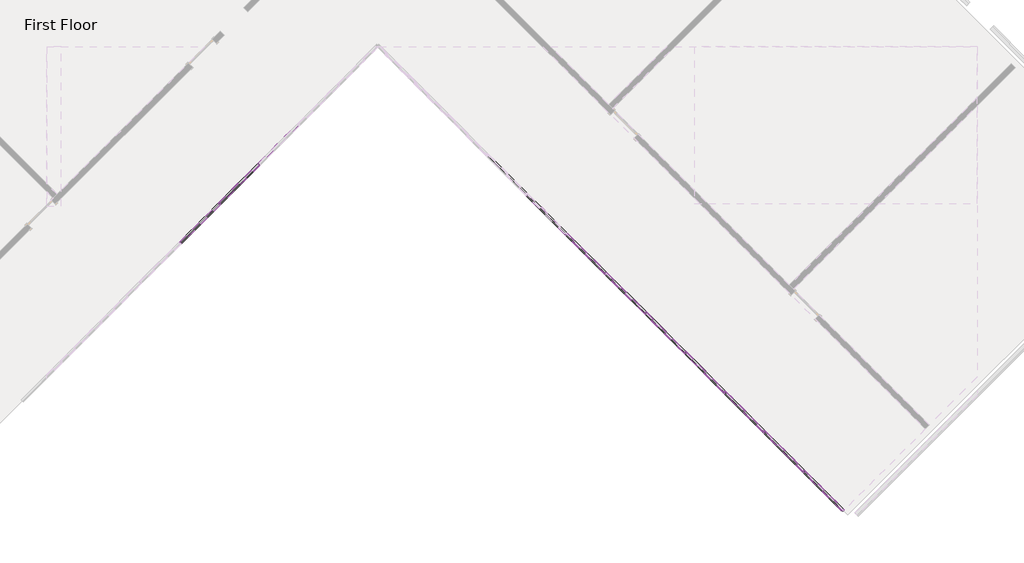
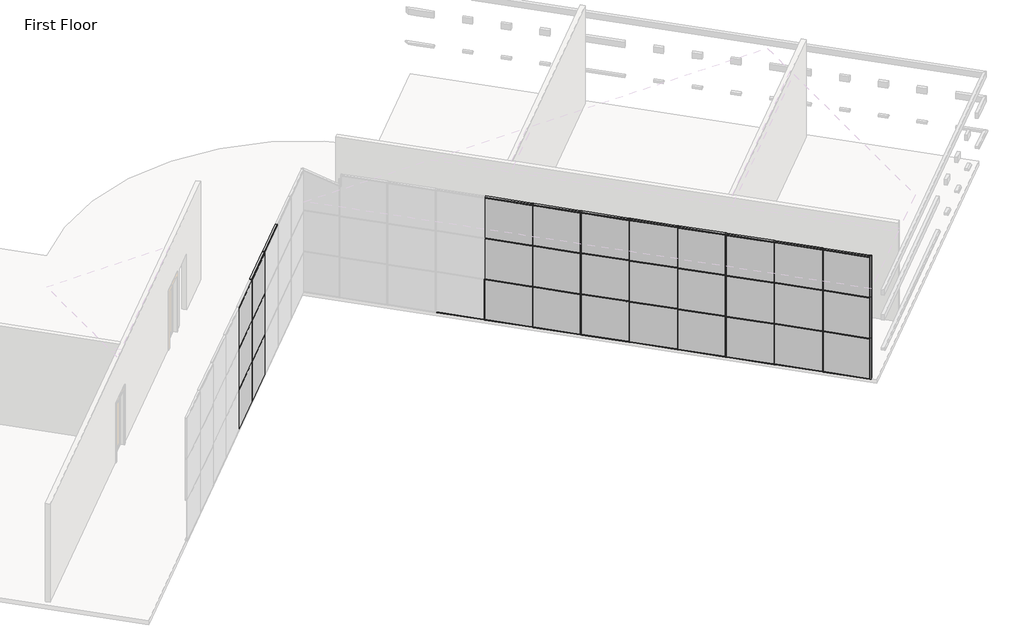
# One storey, part 2 of 5: 71 members, 30 plates.
"""IFC4 building model written with IfcOpenShell, lengths in millimetres."""

from ifc_helpers import new_model, si_unit, origin, place, context, project, spatial, transform, mapped, element, save
from components import member_b8a5b5c0, member_155beb68, member_f5090587, member_42be4715, member_6121af53, member_b87a50da, system_panel_glazed_f8555db4, system_panel_glazed_da345f4e, system_panel_solid_51be2c86, system_panel_solid_5fd6f37f, system_panel_solid_99f695d0, system_panel_solid_2f1037e2

model = new_model("IFC4")

# Units and contexts
model_context = context("Model", 3, world=origin())
ifc_project = project(units=[si_unit("LENGTHUNIT", "METRE", prefix="MILLI")], contexts=[model_context])

# Site, building, storey
site = spatial("IfcSite", under=ifc_project)
building = spatial("IfcBuilding", under=site)
storey = spatial("IfcBuildingStorey", under=building, Name="First Floor", Elevation=0.0)

# Members
placement = place(None, origin())
member_shape = member_b8a5b5c0(model_context)
element("IfcMember", 1, ObjectType="Rectangular Mullion : 1.5\" x 2.5\" Rectangular", at=placement, inside=storey, context=model_context, shape_type="MappedRepresentation", body=[
    mapped(member_shape, transform((9787.3975743, -9702.8925106, 0.0), x_axis=(0.0, 0.0, -1.0), y_axis=(0.70710678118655, 0.707106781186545, 0.0), z_axis=(0.7071067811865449, -0.7071067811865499, 0.0))),
])
member_2_shape = member_155beb68(model_context)
element("IfcMember", 2, ObjectType="Rectangular Mullion : 1.5\" x 2.5\" Rectangular", at=placement, inside=storey, context=model_context, shape_type="MappedRepresentation", body=[
    mapped(member_2_shape, transform((-6100.9205679, -280.3587756, 0.0), x_axis=(-0.7071067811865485, -0.7071067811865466, 0.0), y_axis=(-0.7071067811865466, 0.7071067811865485, 0.0), z_axis=(0.0, 0.0, -1.0))),
])
element("IfcMember", 3, ObjectType="Rectangular Mullion : 1.5\" x 2.5\" Rectangular", at=placement, inside=storey, context=model_context, shape_type="MappedRepresentation", body=[
    mapped(member_2_shape, transform((-7178.5513024, -1357.9895101, 0.0), x_axis=(-0.7071067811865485, -0.7071067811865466, 0.0), y_axis=(-0.7071067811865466, 0.7071067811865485, 0.0), z_axis=(0.0, 0.0, -1.0))),
])
element("IfcMember", 4, ObjectType="Rectangular Mullion : 1.5\" x 2.5\" Rectangular", at=placement, inside=storey, context=model_context, shape_type="MappedRepresentation", body=[
    mapped(member_2_shape, transform((5503.8154046, -5419.3103408, 0.0), x_axis=(-0.7071067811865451, 0.70710678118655, 0.0), y_axis=(0.70710678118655, 0.7071067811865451, 0.0), z_axis=(0.0, 0.0, -1.0))),
])
element("IfcMember", 5, ObjectType="Rectangular Mullion : 1.5\" x 2.5\" Rectangular", at=placement, inside=storey, context=model_context, shape_type="MappedRepresentation", body=[
    mapped(member_2_shape, transform((4426.18467, -4341.6796063, 0.0), x_axis=(-0.7071067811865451, 0.70710678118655, 0.0), y_axis=(0.70710678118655, 0.7071067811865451, 0.0), z_axis=(0.0, 0.0, -1.0))),
])
element("IfcMember", 6, ObjectType="Rectangular Mullion : 1.5\" x 2.5\" Rectangular", at=placement, inside=storey, context=model_context, shape_type="MappedRepresentation", body=[
    mapped(member_2_shape, transform((3348.5539355, -3264.0488718, 0.0), x_axis=(-0.7071067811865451, 0.70710678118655, 0.0), y_axis=(0.70710678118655, 0.7071067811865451, 0.0), z_axis=(0.0, 0.0, -1.0))),
])
element("IfcMember", 7, ObjectType="Rectangular Mullion : 1.5\" x 2.5\" Rectangular", at=placement, inside=storey, context=model_context, shape_type="MappedRepresentation", body=[
    mapped(member_2_shape, transform((2270.923201, -2186.4181373, 0.0), x_axis=(-0.7071067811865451, 0.70710678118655, 0.0), y_axis=(0.70710678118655, 0.7071067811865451, 0.0), z_axis=(0.0, 0.0, -1.0))),
])
element("IfcMember", 8, ObjectType="Rectangular Mullion : 1.5\" x 2.5\" Rectangular", at=placement, inside=storey, context=model_context, shape_type="MappedRepresentation", body=[
    mapped(member_2_shape, transform((1193.2924664, -1108.7874027, 0.0), x_axis=(-0.7071067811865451, 0.70710678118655, 0.0), y_axis=(0.70710678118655, 0.7071067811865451, 0.0), z_axis=(0.0, 0.0, -1.0))),
])
element("IfcMember", 9, ObjectType="Rectangular Mullion : 1.5\" x 2.5\" Rectangular", at=placement, inside=storey, context=model_context, shape_type="MappedRepresentation", body=[
    mapped(member_2_shape, transform((8736.7076081, -8652.2025444, 0.0), x_axis=(-0.7071067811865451, 0.70710678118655, 0.0), y_axis=(0.70710678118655, 0.7071067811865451, 0.0), z_axis=(0.0, 0.0, -1.0))),
])
element("IfcMember", 10, ObjectType="Rectangular Mullion : 1.5\" x 2.5\" Rectangular", at=placement, inside=storey, context=model_context, shape_type="MappedRepresentation", body=[
    mapped(member_2_shape, transform((7659.0768736, -7574.5718099, 0.0), x_axis=(-0.7071067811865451, 0.70710678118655, 0.0), y_axis=(0.70710678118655, 0.7071067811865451, 0.0), z_axis=(0.0, 0.0, -1.0))),
])
element("IfcMember", 11, ObjectType="Rectangular Mullion : 1.5\" x 2.5\" Rectangular", at=placement, inside=storey, context=model_context, shape_type="MappedRepresentation", body=[
    mapped(member_2_shape, transform((6581.4461391, -6496.9410754, 0.0), x_axis=(-0.7071067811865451, 0.70710678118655, 0.0), y_axis=(0.70710678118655, 0.7071067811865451, 0.0), z_axis=(0.0, 0.0, -1.0))),
])
element("IfcMember", 12, ObjectType="Rectangular Mullion : 1.5\" x 2.5\" Rectangular", at=placement, inside=storey, context=model_context, shape_type="MappedRepresentation", body=[
    mapped(member_2_shape, transform((-7178.5513024, -1357.9895101, 3048.0), x_axis=(-0.7071067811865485, -0.7071067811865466, 0.0), y_axis=(-0.7071067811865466, 0.7071067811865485, 0.0), z_axis=(0.0, 0.0, -1.0))),
])
element("IfcMember", 13, ObjectType="Rectangular Mullion : 1.5\" x 2.5\" Rectangular", at=placement, inside=storey, context=model_context, shape_type="MappedRepresentation", body=[
    mapped(member_2_shape, transform((-6100.9205679, -280.3587756, 3048.0), x_axis=(-0.7071067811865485, -0.7071067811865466, 0.0), y_axis=(-0.7071067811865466, 0.7071067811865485, 0.0), z_axis=(0.0, 0.0, -1.0))),
])
element("IfcMember", 14, ObjectType="Rectangular Mullion : 1.5\" x 2.5\" Rectangular", at=placement, inside=storey, context=model_context, shape_type="MappedRepresentation", body=[
    mapped(member_2_shape, transform((8736.7076081, -8652.2025444, 3048.0), x_axis=(-0.7071067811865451, 0.70710678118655, 0.0), y_axis=(0.70710678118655, 0.7071067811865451, 0.0), z_axis=(0.0, 0.0, -1.0))),
])
element("IfcMember", 15, ObjectType="Rectangular Mullion : 1.5\" x 2.5\" Rectangular", at=placement, inside=storey, context=model_context, shape_type="MappedRepresentation", body=[
    mapped(member_2_shape, transform((7659.0768736, -7574.5718099, 3048.0), x_axis=(-0.7071067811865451, 0.70710678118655, 0.0), y_axis=(0.70710678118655, 0.7071067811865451, 0.0), z_axis=(0.0, 0.0, -1.0))),
])
element("IfcMember", 16, ObjectType="Rectangular Mullion : 1.5\" x 2.5\" Rectangular", at=placement, inside=storey, context=model_context, shape_type="MappedRepresentation", body=[
    mapped(member_2_shape, transform((6581.4461391, -6496.9410754, 3048.0), x_axis=(-0.7071067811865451, 0.70710678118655, 0.0), y_axis=(0.70710678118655, 0.7071067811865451, 0.0), z_axis=(0.0, 0.0, -1.0))),
])
element("IfcMember", 17, ObjectType="Rectangular Mullion : 1.5\" x 2.5\" Rectangular", at=placement, inside=storey, context=model_context, shape_type="MappedRepresentation", body=[
    mapped(member_2_shape, transform((5503.8154046, -5419.3103408, 3048.0), x_axis=(-0.7071067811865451, 0.70710678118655, 0.0), y_axis=(0.70710678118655, 0.7071067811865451, 0.0), z_axis=(0.0, 0.0, -1.0))),
])
element("IfcMember", 18, ObjectType="Rectangular Mullion : 1.5\" x 2.5\" Rectangular", at=placement, inside=storey, context=model_context, shape_type="MappedRepresentation", body=[
    mapped(member_2_shape, transform((4426.18467, -4341.6796063, 3048.0), x_axis=(-0.7071067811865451, 0.70710678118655, 0.0), y_axis=(0.70710678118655, 0.7071067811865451, 0.0), z_axis=(0.0, 0.0, -1.0))),
])
element("IfcMember", 19, ObjectType="Rectangular Mullion : 1.5\" x 2.5\" Rectangular", at=placement, inside=storey, context=model_context, shape_type="MappedRepresentation", body=[
    mapped(member_2_shape, transform((3348.5539355, -3264.0488718, 3048.0), x_axis=(-0.7071067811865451, 0.70710678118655, 0.0), y_axis=(0.70710678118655, 0.7071067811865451, 0.0), z_axis=(0.0, 0.0, -1.0))),
])
element("IfcMember", 20, ObjectType="Rectangular Mullion : 1.5\" x 2.5\" Rectangular", at=placement, inside=storey, context=model_context, shape_type="MappedRepresentation", body=[
    mapped(member_2_shape, transform((2270.923201, -2186.4181373, 3048.0), x_axis=(-0.7071067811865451, 0.70710678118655, 0.0), y_axis=(0.70710678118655, 0.7071067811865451, 0.0), z_axis=(0.0, 0.0, -1.0))),
])
element("IfcMember", 21, ObjectType="Rectangular Mullion : 1.5\" x 2.5\" Rectangular", at=placement, inside=storey, context=model_context, shape_type="MappedRepresentation", body=[
    mapped(member_2_shape, transform((-6100.9205679, -280.3587756, 1524.0), x_axis=(-0.7071067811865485, -0.7071067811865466, 0.0), y_axis=(-0.7071067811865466, 0.7071067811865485, 0.0), z_axis=(0.0, 0.0, -1.0))),
])
element("IfcMember", 22, ObjectType="Rectangular Mullion : 1.5\" x 2.5\" Rectangular", at=placement, inside=storey, context=model_context, shape_type="MappedRepresentation", body=[
    mapped(member_2_shape, transform((-7178.5513024, -1357.9895101, 1524.0), x_axis=(-0.7071067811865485, -0.7071067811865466, 0.0), y_axis=(-0.7071067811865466, 0.7071067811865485, 0.0), z_axis=(0.0, 0.0, -1.0))),
])
element("IfcMember", 23, ObjectType="Rectangular Mullion : 1.5\" x 2.5\" Rectangular", at=placement, inside=storey, context=model_context, shape_type="MappedRepresentation", body=[
    mapped(member_2_shape, transform((8736.7076081, -8652.2025444, 1524.0), x_axis=(-0.7071067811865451, 0.70710678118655, 0.0), y_axis=(0.70710678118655, 0.7071067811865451, 0.0), z_axis=(0.0, 0.0, -1.0))),
])
element("IfcMember", 24, ObjectType="Rectangular Mullion : 1.5\" x 2.5\" Rectangular", at=placement, inside=storey, context=model_context, shape_type="MappedRepresentation", body=[
    mapped(member_2_shape, transform((7659.0768736, -7574.5718099, 1524.0), x_axis=(-0.7071067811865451, 0.70710678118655, 0.0), y_axis=(0.70710678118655, 0.7071067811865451, 0.0), z_axis=(0.0, 0.0, -1.0))),
])
element("IfcMember", 25, ObjectType="Rectangular Mullion : 1.5\" x 2.5\" Rectangular", at=placement, inside=storey, context=model_context, shape_type="MappedRepresentation", body=[
    mapped(member_2_shape, transform((6581.4461391, -6496.9410754, 1524.0), x_axis=(-0.7071067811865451, 0.70710678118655, 0.0), y_axis=(0.70710678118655, 0.7071067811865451, 0.0), z_axis=(0.0, 0.0, -1.0))),
])
element("IfcMember", 26, ObjectType="Rectangular Mullion : 1.5\" x 2.5\" Rectangular", at=placement, inside=storey, context=model_context, shape_type="MappedRepresentation", body=[
    mapped(member_2_shape, transform((5503.8154046, -5419.3103408, 1524.0), x_axis=(-0.7071067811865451, 0.70710678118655, 0.0), y_axis=(0.70710678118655, 0.7071067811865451, 0.0), z_axis=(0.0, 0.0, -1.0))),
])
element("IfcMember", 27, ObjectType="Rectangular Mullion : 1.5\" x 2.5\" Rectangular", at=placement, inside=storey, context=model_context, shape_type="MappedRepresentation", body=[
    mapped(member_2_shape, transform((4426.18467, -4341.6796063, 1524.0), x_axis=(-0.7071067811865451, 0.70710678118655, 0.0), y_axis=(0.70710678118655, 0.7071067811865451, 0.0), z_axis=(0.0, 0.0, -1.0))),
])
element("IfcMember", 28, ObjectType="Rectangular Mullion : 1.5\" x 2.5\" Rectangular", at=placement, inside=storey, context=model_context, shape_type="MappedRepresentation", body=[
    mapped(member_2_shape, transform((3348.5539355, -3264.0488718, 1524.0), x_axis=(-0.7071067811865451, 0.70710678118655, 0.0), y_axis=(0.70710678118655, 0.7071067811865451, 0.0), z_axis=(0.0, 0.0, -1.0))),
])
element("IfcMember", 29, ObjectType="Rectangular Mullion : 1.5\" x 2.5\" Rectangular", at=placement, inside=storey, context=model_context, shape_type="MappedRepresentation", body=[
    mapped(member_2_shape, transform((2270.923201, -2186.4181373, 1524.0), x_axis=(-0.7071067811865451, 0.70710678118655, 0.0), y_axis=(0.70710678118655, 0.7071067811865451, 0.0), z_axis=(0.0, 0.0, -1.0))),
])
member_3_shape = member_f5090587(model_context)
element("IfcMember", 30, ObjectType="Rectangular Mullion : 1.5\" x 2.5\" Rectangular", at=placement, inside=storey, context=model_context, shape_type="MappedRepresentation", body=[
    mapped(member_3_shape, transform((8750.1779923, -8665.6729286, 1524.0), x_axis=(0.0, 0.0, 1.0), y_axis=(0.7071067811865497, 0.7071067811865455, 0.0), z_axis=(-0.7071067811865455, 0.7071067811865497, 0.0))),
])
element("IfcMember", 31, ObjectType="Rectangular Mullion : 1.5\" x 2.5\" Rectangular", at=placement, inside=storey, context=model_context, shape_type="MappedRepresentation", body=[
    mapped(member_3_shape, transform((8750.1779923, -8665.6729286, 3048.0), x_axis=(0.0, 0.0, 1.0), y_axis=(0.7071067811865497, 0.7071067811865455, 0.0), z_axis=(-0.7071067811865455, 0.7071067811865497, 0.0))),
])
member_4_shape = member_42be4715(model_context)
element("IfcMember", 32, ObjectType="Rectangular Mullion : 1.5\" x 2.5\" Rectangular", at=placement, inside=storey, context=model_context, shape_type="MappedRepresentation", body=[
    mapped(member_4_shape, transform((-6087.4501837, -266.8883914, 1524.0), x_axis=(0.0, 0.0, 1.0), y_axis=(-0.7071067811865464, 0.7071067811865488, 0.0), z_axis=(-0.7071067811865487, -0.7071067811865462, 0.0))),
])
element("IfcMember", 33, ObjectType="Rectangular Mullion : 1.5\" x 2.5\" Rectangular", at=placement, inside=storey, context=model_context, shape_type="MappedRepresentation", body=[
    mapped(member_4_shape, transform((-7165.0809182, -1344.5191259, 1524.0), x_axis=(0.0, 0.0, 1.0), y_axis=(-0.7071067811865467, 0.7071067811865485, 0.0), z_axis=(-0.7071067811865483, -0.7071067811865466, 0.0))),
])
element("IfcMember", 34, ObjectType="Rectangular Mullion : 1.5\" x 2.5\" Rectangular", at=placement, inside=storey, context=model_context, shape_type="MappedRepresentation", body=[
    mapped(member_4_shape, transform((-6087.4501837, -266.8883914, 3048.0), x_axis=(0.0, 0.0, 1.0), y_axis=(-0.7071067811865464, 0.7071067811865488, 0.0), z_axis=(-0.7071067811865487, -0.7071067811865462, 0.0))),
])
element("IfcMember", 35, ObjectType="Rectangular Mullion : 1.5\" x 2.5\" Rectangular", at=placement, inside=storey, context=model_context, shape_type="MappedRepresentation", body=[
    mapped(member_4_shape, transform((-7165.0809182, -1344.5191259, 3048.0), x_axis=(0.0, 0.0, 1.0), y_axis=(-0.7071067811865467, 0.7071067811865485, 0.0), z_axis=(-0.7071067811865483, -0.7071067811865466, 0.0))),
])
element("IfcMember", 36, ObjectType="Rectangular Mullion : 1.5\" x 2.5\" Rectangular", at=placement, inside=storey, context=model_context, shape_type="MappedRepresentation", body=[
    mapped(member_4_shape, transform((7672.5472578, -7588.0421941, 1524.0), x_axis=(0.0, 0.0, 1.0), y_axis=(0.7071067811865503, 0.7071067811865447, 0.0), z_axis=(-0.7071067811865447, 0.7071067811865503, 0.0))),
])
element("IfcMember", 37, ObjectType="Rectangular Mullion : 1.5\" x 2.5\" Rectangular", at=placement, inside=storey, context=model_context, shape_type="MappedRepresentation", body=[
    mapped(member_4_shape, transform((6594.9165233, -6510.4114596, 1524.0), x_axis=(0.0, 0.0, 1.0), y_axis=(0.7071067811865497, 0.7071067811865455, 0.0), z_axis=(-0.7071067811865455, 0.7071067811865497, 0.0))),
])
element("IfcMember", 38, ObjectType="Rectangular Mullion : 1.5\" x 2.5\" Rectangular", at=placement, inside=storey, context=model_context, shape_type="MappedRepresentation", body=[
    mapped(member_4_shape, transform((5517.2857887, -5432.780725, 1524.0), x_axis=(0.0, 0.0, 1.0), y_axis=(0.70710678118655, 0.707106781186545, 0.0), z_axis=(-0.707106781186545, 0.70710678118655, 0.0))),
])
element("IfcMember", 39, ObjectType="Rectangular Mullion : 1.5\" x 2.5\" Rectangular", at=placement, inside=storey, context=model_context, shape_type="MappedRepresentation", body=[
    mapped(member_4_shape, transform((4439.6550542, -4355.1499905, 1524.0), x_axis=(0.0, 0.0, 1.0), y_axis=(0.70710678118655, 0.707106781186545, 0.0), z_axis=(-0.7071067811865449, 0.7071067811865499, 0.0))),
])
element("IfcMember", 40, ObjectType="Rectangular Mullion : 1.5\" x 2.5\" Rectangular", at=placement, inside=storey, context=model_context, shape_type="MappedRepresentation", body=[
    mapped(member_4_shape, transform((3362.0243197, -3277.519256, 1524.0), x_axis=(0.0, 0.0, 1.0), y_axis=(0.70710678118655, 0.707106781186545, 0.0), z_axis=(-0.707106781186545, 0.70710678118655, 0.0))),
])
element("IfcMember", 41, ObjectType="Rectangular Mullion : 1.5\" x 2.5\" Rectangular", at=placement, inside=storey, context=model_context, shape_type="MappedRepresentation", body=[
    mapped(member_4_shape, transform((2284.3935852, -2199.8885214, 1524.0), x_axis=(0.0, 0.0, 1.0), y_axis=(0.70710678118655, 0.707106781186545, 0.0), z_axis=(-0.7071067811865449, 0.7071067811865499, 0.0))),
])
element("IfcMember", 42, ObjectType="Rectangular Mullion : 1.5\" x 2.5\" Rectangular", at=placement, inside=storey, context=model_context, shape_type="MappedRepresentation", body=[
    mapped(member_4_shape, transform((1206.7628506, -1122.2577869, 1524.0), x_axis=(0.0, 0.0, 1.0), y_axis=(0.70710678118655, 0.707106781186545, 0.0), z_axis=(-0.707106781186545, 0.70710678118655, 0.0))),
])
element("IfcMember", 43, ObjectType="Rectangular Mullion : 1.5\" x 2.5\" Rectangular", at=placement, inside=storey, context=model_context, shape_type="MappedRepresentation", body=[
    mapped(member_4_shape, transform((7672.5472578, -7588.0421941, 3048.0), x_axis=(0.0, 0.0, 1.0), y_axis=(0.70710678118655, 0.707106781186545, 0.0), z_axis=(-0.707106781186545, 0.70710678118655, 0.0))),
])
element("IfcMember", 44, ObjectType="Rectangular Mullion : 1.5\" x 2.5\" Rectangular", at=placement, inside=storey, context=model_context, shape_type="MappedRepresentation", body=[
    mapped(member_4_shape, transform((6594.9165233, -6510.4114596, 3048.0), x_axis=(0.0, 0.0, 1.0), y_axis=(0.70710678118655, 0.707106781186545, 0.0), z_axis=(-0.7071067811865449, 0.7071067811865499, 0.0))),
])
element("IfcMember", 45, ObjectType="Rectangular Mullion : 1.5\" x 2.5\" Rectangular", at=placement, inside=storey, context=model_context, shape_type="MappedRepresentation", body=[
    mapped(member_4_shape, transform((5517.2857887, -5432.780725, 3048.0), x_axis=(0.0, 0.0, 1.0), y_axis=(0.70710678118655, 0.707106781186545, 0.0), z_axis=(-0.7071067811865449, 0.7071067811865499, 0.0))),
])
element("IfcMember", 46, ObjectType="Rectangular Mullion : 1.5\" x 2.5\" Rectangular", at=placement, inside=storey, context=model_context, shape_type="MappedRepresentation", body=[
    mapped(member_4_shape, transform((4439.6550542, -4355.1499905, 3048.0), x_axis=(0.0, 0.0, 1.0), y_axis=(0.70710678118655, 0.707106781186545, 0.0), z_axis=(-0.707106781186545, 0.70710678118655, 0.0))),
])
element("IfcMember", 47, ObjectType="Rectangular Mullion : 1.5\" x 2.5\" Rectangular", at=placement, inside=storey, context=model_context, shape_type="MappedRepresentation", body=[
    mapped(member_4_shape, transform((3362.0243197, -3277.519256, 3048.0), x_axis=(0.0, 0.0, 1.0), y_axis=(0.70710678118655, 0.707106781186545, 0.0), z_axis=(-0.707106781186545, 0.70710678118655, 0.0))),
])
element("IfcMember", 48, ObjectType="Rectangular Mullion : 1.5\" x 2.5\" Rectangular", at=placement, inside=storey, context=model_context, shape_type="MappedRepresentation", body=[
    mapped(member_4_shape, transform((2284.3935852, -2199.8885214, 3048.0), x_axis=(0.0, 0.0, 1.0), y_axis=(0.70710678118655, 0.707106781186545, 0.0), z_axis=(-0.7071067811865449, 0.7071067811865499, 0.0))),
])
member_5_shape = member_6121af53(model_context)
element("IfcMember", 49, ObjectType="Rectangular Mullion : 1.5\" x 2.5\" Rectangular", at=placement, inside=storey, context=model_context, shape_type="MappedRepresentation", body=[
    mapped(member_5_shape, transform((-7192.0216866, -1371.4598943, 0.0), x_axis=(0.0, 0.0, -1.0), y_axis=(-0.7071067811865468, 0.7071067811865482, 0.0), z_axis=(0.7071067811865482, 0.7071067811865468, 0.0))),
])
element("IfcMember", 50, ObjectType="Rectangular Mullion : 1.5\" x 2.5\" Rectangular", at=placement, inside=storey, context=model_context, shape_type="MappedRepresentation", body=[
    mapped(member_5_shape, transform((-6114.3909521, -293.8291597, 0.0), x_axis=(0.0, 0.0, -1.0), y_axis=(-0.7071067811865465, 0.7071067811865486, 0.0), z_axis=(0.7071067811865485, 0.7071067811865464, 0.0))),
])
element("IfcMember", 51, ObjectType="Rectangular Mullion : 1.5\" x 2.5\" Rectangular", at=placement, inside=storey, context=model_context, shape_type="MappedRepresentation", body=[
    mapped(member_5_shape, transform((8723.237224, -8638.7321603, 0.0), x_axis=(0.0, 0.0, -1.0), y_axis=(0.7071067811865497, 0.7071067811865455, 0.0), z_axis=(0.7071067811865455, -0.7071067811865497, 0.0))),
])
element("IfcMember", 52, ObjectType="Rectangular Mullion : 1.5\" x 2.5\" Rectangular", at=placement, inside=storey, context=model_context, shape_type="MappedRepresentation", body=[
    mapped(member_5_shape, transform((7645.6064894, -7561.1014257, 0.0), x_axis=(0.0, 0.0, -1.0), y_axis=(0.70710678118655, 0.707106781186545, 0.0), z_axis=(0.707106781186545, -0.70710678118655, 0.0))),
])
element("IfcMember", 53, ObjectType="Rectangular Mullion : 1.5\" x 2.5\" Rectangular", at=placement, inside=storey, context=model_context, shape_type="MappedRepresentation", body=[
    mapped(member_5_shape, transform((6567.9757549, -6483.4706912, 0.0), x_axis=(0.0, 0.0, -1.0), y_axis=(0.70710678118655, 0.707106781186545, 0.0), z_axis=(0.707106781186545, -0.70710678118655, 0.0))),
])
element("IfcMember", 54, ObjectType="Rectangular Mullion : 1.5\" x 2.5\" Rectangular", at=placement, inside=storey, context=model_context, shape_type="MappedRepresentation", body=[
    mapped(member_5_shape, transform((5490.3450204, -5405.8399567, 0.0), x_axis=(0.0, 0.0, -1.0), y_axis=(0.70710678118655, 0.707106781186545, 0.0), z_axis=(0.7071067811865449, -0.7071067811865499, 0.0))),
])
element("IfcMember", 55, ObjectType="Rectangular Mullion : 1.5\" x 2.5\" Rectangular", at=placement, inside=storey, context=model_context, shape_type="MappedRepresentation", body=[
    mapped(member_5_shape, transform((4412.7142859, -4328.2092221, 0.0), x_axis=(0.0, 0.0, -1.0), y_axis=(0.70710678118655, 0.707106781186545, 0.0), z_axis=(0.707106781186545, -0.70710678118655, 0.0))),
])
element("IfcMember", 56, ObjectType="Rectangular Mullion : 1.5\" x 2.5\" Rectangular", at=placement, inside=storey, context=model_context, shape_type="MappedRepresentation", body=[
    mapped(member_5_shape, transform((3335.0835513, -3250.5784876, 0.0), x_axis=(0.0, 0.0, -1.0), y_axis=(0.70710678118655, 0.707106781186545, 0.0), z_axis=(0.7071067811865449, -0.7071067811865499, 0.0))),
])
element("IfcMember", 57, ObjectType="Rectangular Mullion : 1.5\" x 2.5\" Rectangular", at=placement, inside=storey, context=model_context, shape_type="MappedRepresentation", body=[
    mapped(member_5_shape, transform((2257.4528168, -2172.9477531, 0.0), x_axis=(0.0, 0.0, -1.0), y_axis=(0.70710678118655, 0.707106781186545, 0.0), z_axis=(0.707106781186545, -0.70710678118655, 0.0))),
])
element("IfcMember", 58, ObjectType="Rectangular Mullion : 1.5\" x 2.5\" Rectangular", at=placement, inside=storey, context=model_context, shape_type="MappedRepresentation", body=[
    mapped(member_5_shape, transform((1179.8220823, -1095.3170186, 0.0), x_axis=(0.0, 0.0, -1.0), y_axis=(0.70710678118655, 0.707106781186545, 0.0), z_axis=(0.707106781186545, -0.70710678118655, 0.0))),
])
element("IfcMember", 59, ObjectType="Rectangular Mullion : 1.5\" x 2.5\" Rectangular", at=placement, inside=storey, context=model_context, shape_type="MappedRepresentation", body=[
    mapped(member_shape, transform((8750.1779923, -8665.6729286, 4572.0), x_axis=(0.0, 0.0, 1.0), y_axis=(0.7071067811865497, 0.7071067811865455, 0.0), z_axis=(-0.7071067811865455, 0.7071067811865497, 0.0))),
])
element("IfcMember", 60, ObjectType="Rectangular Mullion : 1.5\" x 2.5\" Rectangular", at=placement, inside=storey, context=model_context, shape_type="MappedRepresentation", body=[
    mapped(member_5_shape, transform((-6087.4501837, -266.8883914, 4572.0), x_axis=(0.0, 0.0, 1.0), y_axis=(-0.7071067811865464, 0.7071067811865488, 0.0), z_axis=(-0.7071067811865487, -0.7071067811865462, 0.0))),
])
element("IfcMember", 61, ObjectType="Rectangular Mullion : 1.5\" x 2.5\" Rectangular", at=placement, inside=storey, context=model_context, shape_type="MappedRepresentation", body=[
    mapped(member_5_shape, transform((-7165.0809182, -1344.5191259, 4572.0), x_axis=(0.0, 0.0, 1.0), y_axis=(-0.7071067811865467, 0.7071067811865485, 0.0), z_axis=(-0.7071067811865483, -0.7071067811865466, 0.0))),
])
element("IfcMember", 62, ObjectType="Rectangular Mullion : 1.5\" x 2.5\" Rectangular", at=placement, inside=storey, context=model_context, shape_type="MappedRepresentation", body=[
    mapped(member_5_shape, transform((7672.5472578, -7588.0421941, 4572.0), x_axis=(0.0, 0.0, 1.0), y_axis=(0.70710678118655, 0.707106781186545, 0.0), z_axis=(-0.707106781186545, 0.70710678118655, 0.0))),
])
element("IfcMember", 63, ObjectType="Rectangular Mullion : 1.5\" x 2.5\" Rectangular", at=placement, inside=storey, context=model_context, shape_type="MappedRepresentation", body=[
    mapped(member_5_shape, transform((6594.9165233, -6510.4114596, 4572.0), x_axis=(0.0, 0.0, 1.0), y_axis=(0.70710678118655, 0.707106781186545, 0.0), z_axis=(-0.7071067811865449, 0.7071067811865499, 0.0))),
])
element("IfcMember", 64, ObjectType="Rectangular Mullion : 1.5\" x 2.5\" Rectangular", at=placement, inside=storey, context=model_context, shape_type="MappedRepresentation", body=[
    mapped(member_5_shape, transform((5517.2857887, -5432.780725, 4572.0), x_axis=(0.0, 0.0, 1.0), y_axis=(0.70710678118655, 0.707106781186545, 0.0), z_axis=(-0.7071067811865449, 0.7071067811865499, 0.0))),
])
element("IfcMember", 65, ObjectType="Rectangular Mullion : 1.5\" x 2.5\" Rectangular", at=placement, inside=storey, context=model_context, shape_type="MappedRepresentation", body=[
    mapped(member_5_shape, transform((4439.6550542, -4355.1499905, 4572.0), x_axis=(0.0, 0.0, 1.0), y_axis=(0.70710678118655, 0.707106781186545, 0.0), z_axis=(-0.707106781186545, 0.70710678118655, 0.0))),
])
element("IfcMember", 66, ObjectType="Rectangular Mullion : 1.5\" x 2.5\" Rectangular", at=placement, inside=storey, context=model_context, shape_type="MappedRepresentation", body=[
    mapped(member_5_shape, transform((3362.0243197, -3277.519256, 4572.0), x_axis=(0.0, 0.0, 1.0), y_axis=(0.70710678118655, 0.707106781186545, 0.0), z_axis=(-0.707106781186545, 0.70710678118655, 0.0))),
])
element("IfcMember", 67, ObjectType="Rectangular Mullion : 1.5\" x 2.5\" Rectangular", at=placement, inside=storey, context=model_context, shape_type="MappedRepresentation", body=[
    mapped(member_5_shape, transform((2284.3935852, -2199.8885214, 4572.0), x_axis=(0.0, 0.0, 1.0), y_axis=(0.70710678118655, 0.707106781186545, 0.0), z_axis=(-0.7071067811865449, 0.7071067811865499, 0.0))),
])
element("IfcMember", 68, ObjectType="Rectangular Mullion : 1.5\" x 2.5\" Rectangular", at=placement, inside=storey, context=model_context, shape_type="MappedRepresentation", body=[
    mapped(member_5_shape, transform((1206.7628506, -1122.2577869, 4572.0), x_axis=(0.0, 0.0, 1.0), y_axis=(0.70710678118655, 0.707106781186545, 0.0), z_axis=(-0.707106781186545, 0.70710678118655, 0.0))),
])
member_6_shape = member_b87a50da(model_context)
element("IfcMember", 69, ObjectType="Rectangular Mullion : 1.5\" x 2.5\" Rectangular", at=placement, inside=storey, context=model_context, shape_type="MappedRepresentation", body=[
    mapped(member_6_shape, transform((9814.3383427, -9729.833279, 4572.0), x_axis=(0.7071067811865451, -0.70710678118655, 0.0), y_axis=(0.70710678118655, 0.7071067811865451, 0.0), z_axis=(0.0, 0.0, 1.0))),
])
element("IfcMember", 70, ObjectType="Rectangular Mullion : 1.5\" x 2.5\" Rectangular", at=placement, inside=storey, context=model_context, shape_type="MappedRepresentation", body=[
    mapped(member_6_shape, transform((9814.3383427, -9729.833279, 1524.0), x_axis=(0.7071067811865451, -0.70710678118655, 0.0), y_axis=(0.70710678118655, 0.7071067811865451, 0.0), z_axis=(0.0, 0.0, 1.0))),
])
element("IfcMember", 71, ObjectType="Rectangular Mullion : 1.5\" x 2.5\" Rectangular", at=placement, inside=storey, context=model_context, shape_type="MappedRepresentation", body=[
    mapped(member_6_shape, transform((9814.3383427, -9729.833279, 3048.0), x_axis=(0.7071067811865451, -0.70710678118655, 0.0), y_axis=(0.70710678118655, 0.7071067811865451, 0.0), z_axis=(0.0, 0.0, 1.0))),
])

# Plates
system_panel_glazed_shape = system_panel_glazed_f8555db4(model_context)
element("IfcPlate", 72, ObjectType="System Panel : Glazed", at=placement, inside=storey, context=model_context, shape_type="MappedRepresentation", body=[
    mapped(system_panel_glazed_shape, transform((9268.7877833, -9184.2827196, 38.1), x_axis=(-0.7071067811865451, 0.70710678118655, 0.0), y_axis=(-0.70710678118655, -0.7071067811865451, 0.0), z_axis=(0.0, 0.0, 1.0))),
])
system_panel_glazed_2_shape = system_panel_glazed_da345f4e(model_context)
element("IfcPlate", 73, ObjectType="System Panel : Glazed", at=placement, inside=storey, context=model_context, shape_type="MappedRepresentation", body=[
    mapped(system_panel_glazed_2_shape, transform((8197.8922409, -8113.3871772, 38.1), x_axis=(-0.7071067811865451, 0.70710678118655, 0.0), y_axis=(-0.70710678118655, -0.7071067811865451, 0.0), z_axis=(0.0, 0.0, 1.0))),
])
element("IfcPlate", 74, ObjectType="System Panel : Glazed", at=placement, inside=storey, context=model_context, shape_type="MappedRepresentation", body=[
    mapped(system_panel_glazed_2_shape, transform((7120.2615064, -7035.7564426, 38.1), x_axis=(-0.7071067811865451, 0.70710678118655, 0.0), y_axis=(-0.70710678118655, -0.7071067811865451, 0.0), z_axis=(0.0, 0.0, 1.0))),
])
element("IfcPlate", 75, ObjectType="System Panel : Glazed", at=placement, inside=storey, context=model_context, shape_type="MappedRepresentation", body=[
    mapped(system_panel_glazed_2_shape, transform((6042.6307718, -5958.1257081, 38.1), x_axis=(-0.7071067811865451, 0.70710678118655, 0.0), y_axis=(-0.70710678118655, -0.7071067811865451, 0.0), z_axis=(0.0, 0.0, 1.0))),
])
element("IfcPlate", 76, ObjectType="System Panel : Glazed", at=placement, inside=storey, context=model_context, shape_type="MappedRepresentation", body=[
    mapped(system_panel_glazed_2_shape, transform((4965.0000373, -4880.4949736, 38.1), x_axis=(-0.7071067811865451, 0.70710678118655, 0.0), y_axis=(-0.70710678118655, -0.7071067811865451, 0.0), z_axis=(0.0, 0.0, 1.0))),
])
element("IfcPlate", 77, ObjectType="System Panel : Glazed", at=placement, inside=storey, context=model_context, shape_type="MappedRepresentation", body=[
    mapped(system_panel_glazed_2_shape, transform((3887.3693028, -3802.8642391, 38.1), x_axis=(-0.7071067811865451, 0.70710678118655, 0.0), y_axis=(-0.70710678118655, -0.7071067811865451, 0.0), z_axis=(0.0, 0.0, 1.0))),
])
element("IfcPlate", 78, ObjectType="System Panel : Glazed", at=placement, inside=storey, context=model_context, shape_type="MappedRepresentation", body=[
    mapped(system_panel_glazed_2_shape, transform((2809.7385682, -2725.2335045, 38.1), x_axis=(-0.7071067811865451, 0.70710678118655, 0.0), y_axis=(-0.70710678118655, -0.7071067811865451, 0.0), z_axis=(0.0, 0.0, 1.0))),
])
element("IfcPlate", 79, ObjectType="System Panel : Glazed", at=placement, inside=storey, context=model_context, shape_type="MappedRepresentation", body=[
    mapped(system_panel_glazed_2_shape, transform((1732.1078337, -1647.60277, 38.1), x_axis=(-0.7071067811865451, 0.70710678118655, 0.0), y_axis=(-0.70710678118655, -0.7071067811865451, 0.0), z_axis=(0.0, 0.0, 1.0))),
])
element("IfcPlate", 80, ObjectType="System Panel : Glazed", at=placement, inside=storey, context=model_context, shape_type="MappedRepresentation", body=[
    mapped(system_panel_glazed_2_shape, transform((-6639.7359352, -819.1741428, 38.1), x_axis=(-0.7071067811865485, -0.7071067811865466, 0.0), y_axis=(0.7071067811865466, -0.7071067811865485, 0.0), z_axis=(0.0, 0.0, 1.0))),
])
element("IfcPlate", 81, ObjectType="System Panel : Glazed", at=placement, inside=storey, context=model_context, shape_type="MappedRepresentation", body=[
    mapped(system_panel_glazed_2_shape, transform((-7717.3666697, -1896.8048774, 38.1), x_axis=(-0.7071067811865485, -0.7071067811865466, 0.0), y_axis=(0.7071067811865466, -0.7071067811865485, 0.0), z_axis=(0.0, 0.0, 1.0))),
])
system_panel_solid_shape = system_panel_solid_51be2c86(model_context)
element("IfcPlate", 82, ObjectType="System Panel : Solid", at=placement, inside=storey, context=model_context, shape_type="MappedRepresentation", body=[
    mapped(system_panel_solid_shape, transform((9268.7877833, -9184.2827196, 1543.05), x_axis=(-0.7071067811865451, 0.70710678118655, 0.0), y_axis=(-0.70710678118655, -0.7071067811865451, 0.0), z_axis=(0.0, 0.0, 1.0))),
])
system_panel_solid_2_shape = system_panel_solid_5fd6f37f(model_context)
element("IfcPlate", 83, ObjectType="System Panel : Solid", at=placement, inside=storey, context=model_context, shape_type="MappedRepresentation", body=[
    mapped(system_panel_solid_2_shape, transform((8197.8922409, -8113.3871772, 1543.05), x_axis=(-0.7071067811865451, 0.70710678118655, 0.0), y_axis=(-0.70710678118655, -0.7071067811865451, 0.0), z_axis=(0.0, 0.0, 1.0))),
])
element("IfcPlate", 84, ObjectType="System Panel : Solid", at=placement, inside=storey, context=model_context, shape_type="MappedRepresentation", body=[
    mapped(system_panel_solid_2_shape, transform((7120.2615064, -7035.7564426, 1543.05), x_axis=(-0.7071067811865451, 0.70710678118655, 0.0), y_axis=(-0.70710678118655, -0.7071067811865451, 0.0), z_axis=(0.0, 0.0, 1.0))),
])
element("IfcPlate", 85, ObjectType="System Panel : Solid", at=placement, inside=storey, context=model_context, shape_type="MappedRepresentation", body=[
    mapped(system_panel_solid_2_shape, transform((6042.6307718, -5958.1257081, 1543.05), x_axis=(-0.7071067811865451, 0.70710678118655, 0.0), y_axis=(-0.70710678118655, -0.7071067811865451, 0.0), z_axis=(0.0, 0.0, 1.0))),
])
element("IfcPlate", 86, ObjectType="System Panel : Solid", at=placement, inside=storey, context=model_context, shape_type="MappedRepresentation", body=[
    mapped(system_panel_solid_2_shape, transform((4965.0000373, -4880.4949736, 1543.05), x_axis=(-0.7071067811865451, 0.70710678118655, 0.0), y_axis=(-0.70710678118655, -0.7071067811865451, 0.0), z_axis=(0.0, 0.0, 1.0))),
])
element("IfcPlate", 87, ObjectType="System Panel : Solid", at=placement, inside=storey, context=model_context, shape_type="MappedRepresentation", body=[
    mapped(system_panel_solid_2_shape, transform((3887.3693028, -3802.8642391, 1543.05), x_axis=(-0.7071067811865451, 0.70710678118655, 0.0), y_axis=(-0.70710678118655, -0.7071067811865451, 0.0), z_axis=(0.0, 0.0, 1.0))),
])
element("IfcPlate", 88, ObjectType="System Panel : Solid", at=placement, inside=storey, context=model_context, shape_type="MappedRepresentation", body=[
    mapped(system_panel_solid_2_shape, transform((2809.7385682, -2725.2335045, 1543.05), x_axis=(-0.7071067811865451, 0.70710678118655, 0.0), y_axis=(-0.70710678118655, -0.7071067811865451, 0.0), z_axis=(0.0, 0.0, 1.0))),
])
element("IfcPlate", 89, ObjectType="System Panel : Solid", at=placement, inside=storey, context=model_context, shape_type="MappedRepresentation", body=[
    mapped(system_panel_solid_2_shape, transform((1732.1078337, -1647.60277, 1543.05), x_axis=(-0.7071067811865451, 0.70710678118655, 0.0), y_axis=(-0.70710678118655, -0.7071067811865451, 0.0), z_axis=(0.0, 0.0, 1.0))),
])
element("IfcPlate", 90, ObjectType="System Panel : Solid", at=placement, inside=storey, context=model_context, shape_type="MappedRepresentation", body=[
    mapped(system_panel_solid_2_shape, transform((-6639.7359352, -819.1741428, 1543.05), x_axis=(-0.7071067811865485, -0.7071067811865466, 0.0), y_axis=(0.7071067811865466, -0.7071067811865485, 0.0), z_axis=(0.0, 0.0, 1.0))),
])
element("IfcPlate", 91, ObjectType="System Panel : Solid", at=placement, inside=storey, context=model_context, shape_type="MappedRepresentation", body=[
    mapped(system_panel_solid_2_shape, transform((-7717.3666697, -1896.8048774, 1543.05), x_axis=(-0.7071067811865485, -0.7071067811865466, 0.0), y_axis=(0.7071067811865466, -0.7071067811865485, 0.0), z_axis=(0.0, 0.0, 1.0))),
])
system_panel_solid_3_shape = system_panel_solid_99f695d0(model_context)
element("IfcPlate", 92, ObjectType="System Panel : Solid", at=placement, inside=storey, context=model_context, shape_type="MappedRepresentation", body=[
    mapped(system_panel_solid_3_shape, transform((9268.7877833, -9184.2827196, 3067.05), x_axis=(-0.7071067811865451, 0.70710678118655, 0.0), y_axis=(-0.70710678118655, -0.7071067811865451, 0.0), z_axis=(0.0, 0.0, 1.0))),
])
system_panel_solid_4_shape = system_panel_solid_2f1037e2(model_context)
element("IfcPlate", 93, ObjectType="System Panel : Solid", at=placement, inside=storey, context=model_context, shape_type="MappedRepresentation", body=[
    mapped(system_panel_solid_4_shape, transform((8197.8922409, -8113.3871772, 3067.05), x_axis=(-0.7071067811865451, 0.70710678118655, 0.0), y_axis=(-0.70710678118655, -0.7071067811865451, 0.0), z_axis=(0.0, 0.0, 1.0))),
])
element("IfcPlate", 94, ObjectType="System Panel : Solid", at=placement, inside=storey, context=model_context, shape_type="MappedRepresentation", body=[
    mapped(system_panel_solid_4_shape, transform((7120.2615064, -7035.7564426, 3067.05), x_axis=(-0.7071067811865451, 0.70710678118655, 0.0), y_axis=(-0.70710678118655, -0.7071067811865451, 0.0), z_axis=(0.0, 0.0, 1.0))),
])
element("IfcPlate", 95, ObjectType="System Panel : Solid", at=placement, inside=storey, context=model_context, shape_type="MappedRepresentation", body=[
    mapped(system_panel_solid_4_shape, transform((6042.6307718, -5958.1257081, 3067.05), x_axis=(-0.7071067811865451, 0.70710678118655, 0.0), y_axis=(-0.70710678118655, -0.7071067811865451, 0.0), z_axis=(0.0, 0.0, 1.0))),
])
element("IfcPlate", 96, ObjectType="System Panel : Solid", at=placement, inside=storey, context=model_context, shape_type="MappedRepresentation", body=[
    mapped(system_panel_solid_4_shape, transform((4965.0000373, -4880.4949736, 3067.05), x_axis=(-0.7071067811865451, 0.70710678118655, 0.0), y_axis=(-0.70710678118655, -0.7071067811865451, 0.0), z_axis=(0.0, 0.0, 1.0))),
])
element("IfcPlate", 97, ObjectType="System Panel : Solid", at=placement, inside=storey, context=model_context, shape_type="MappedRepresentation", body=[
    mapped(system_panel_solid_4_shape, transform((3887.3693028, -3802.8642391, 3067.05), x_axis=(-0.7071067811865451, 0.70710678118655, 0.0), y_axis=(-0.70710678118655, -0.7071067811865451, 0.0), z_axis=(0.0, 0.0, 1.0))),
])
element("IfcPlate", 98, ObjectType="System Panel : Solid", at=placement, inside=storey, context=model_context, shape_type="MappedRepresentation", body=[
    mapped(system_panel_solid_4_shape, transform((2809.7385682, -2725.2335045, 3067.05), x_axis=(-0.7071067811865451, 0.70710678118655, 0.0), y_axis=(-0.70710678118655, -0.7071067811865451, 0.0), z_axis=(0.0, 0.0, 1.0))),
])
element("IfcPlate", 99, ObjectType="System Panel : Solid", at=placement, inside=storey, context=model_context, shape_type="MappedRepresentation", body=[
    mapped(system_panel_solid_4_shape, transform((1732.1078337, -1647.60277, 3067.05), x_axis=(-0.7071067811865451, 0.70710678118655, 0.0), y_axis=(-0.70710678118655, -0.7071067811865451, 0.0), z_axis=(0.0, 0.0, 1.0))),
])
element("IfcPlate", 100, ObjectType="System Panel : Solid", at=placement, inside=storey, context=model_context, shape_type="MappedRepresentation", body=[
    mapped(system_panel_solid_4_shape, transform((-6639.7359352, -819.1741428, 3067.05), x_axis=(-0.7071067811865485, -0.7071067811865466, 0.0), y_axis=(0.7071067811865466, -0.7071067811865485, 0.0), z_axis=(0.0, 0.0, 1.0))),
])
element("IfcPlate", 101, ObjectType="System Panel : Solid", at=placement, inside=storey, context=model_context, shape_type="MappedRepresentation", body=[
    mapped(system_panel_solid_4_shape, transform((-7717.3666697, -1896.8048774, 3067.05), x_axis=(-0.7071067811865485, -0.7071067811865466, 0.0), y_axis=(0.7071067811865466, -0.7071067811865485, 0.0), z_axis=(0.0, 0.0, 1.0))),
])

save(model, "model.ifc")
